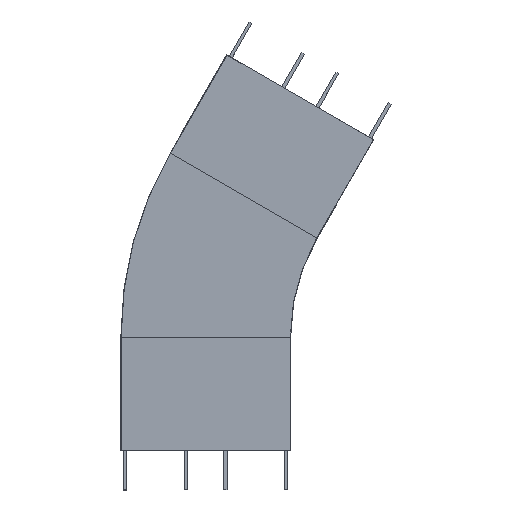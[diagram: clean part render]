
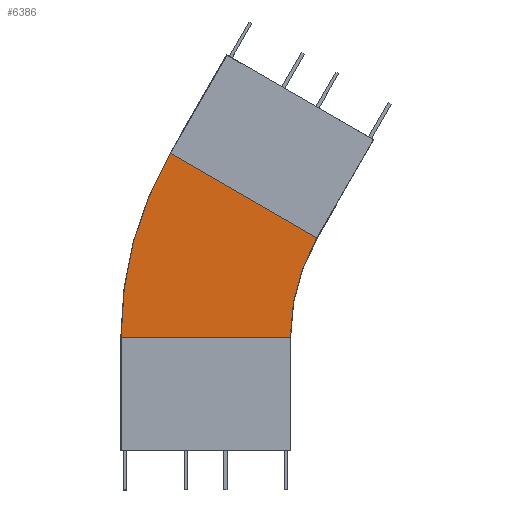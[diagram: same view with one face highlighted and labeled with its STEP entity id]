
A CAD part, top view. The second image highlights one B-rep face of the part: STEP entity #6386.
In plain terms, the highlighted planar face has unit normal (0, 0, 1).
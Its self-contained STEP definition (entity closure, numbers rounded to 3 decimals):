
#34 = CARTESIAN_POINT ( 'NONE',  ( -562.483, 324.75, 37. ) ) ;
#221 = AXIS2_PLACEMENT_3D ( 'NONE', #8310, #1627, #7547 ) ;
#343 = AXIS2_PLACEMENT_3D ( 'NONE', #2795, #2893, #3514 ) ;
#801 = CIRCLE ( 'NONE', #1267, 350.5 ) ;
#991 = EDGE_CURVE ( 'NONE', #4163, #8152, #1192, .T. ) ;
#1192 = LINE ( 'NONE', #8452, #1268 ) ;
#1267 = AXIS2_PLACEMENT_3D ( 'NONE', #8843, #2249, #8886 ) ;
#1268 = VECTOR ( 'NONE', #1773, 1000. ) ;
#1627 = DIRECTION ( 'NONE',  ( 0., 0., 1. ) ) ;
#1773 = DIRECTION ( 'NONE',  ( -0.866, 0.5, 0. ) ) ;
#1982 = CARTESIAN_POINT ( 'NONE',  ( -350.5, 0., 37. ) ) ;
#2122 = FACE_OUTER_BOUND ( 'NONE', #2894, .T. ) ;
#2249 = DIRECTION ( 'NONE',  ( 0., 0., 1. ) ) ;
#2591 = EDGE_CURVE ( 'NONE', #4163, #8863, #801, .T. ) ;
#2795 = CARTESIAN_POINT ( 'NONE',  ( -303.542, 175.25, 37. ) ) ;
#2893 = DIRECTION ( 'NONE',  ( 0., 0., 1. ) ) ;
#2894 = EDGE_LOOP ( 'NONE', ( #7503, #8988, #5330, #6155 ) ) ;
#3096 = VECTOR ( 'NONE', #4113, 1000. ) ;
#3301 = CIRCLE ( 'NONE', #221, 649.5 ) ;
#3490 = CARTESIAN_POINT ( 'NONE',  ( -303.542, 175.25, 37. ) ) ;
#3514 = DIRECTION ( 'NONE',  ( 1., 0., 0. ) ) ;
#3658 = PLANE ( 'NONE',  #343 ) ;
#4046 = EDGE_CURVE ( 'NONE', #8152, #9183, #3301, .T. ) ;
#4113 = DIRECTION ( 'NONE',  ( 1., 0., 0. ) ) ;
#4163 = VERTEX_POINT ( 'NONE', #3490 ) ;
#5330 = ORIENTED_EDGE ( 'NONE', *, *, #4046, .T. ) ;
#5810 = EDGE_CURVE ( 'NONE', #9183, #8863, #6277, .T. ) ;
#6155 = ORIENTED_EDGE ( 'NONE', *, *, #5810, .T. ) ;
#6277 = LINE ( 'NONE', #1982, #3096 ) ;
#6291 = CARTESIAN_POINT ( 'NONE',  ( -649.5, 0., 37. ) ) ;
#6386 = ADVANCED_FACE ( 'NONE', ( #2122 ), #3658, .T. ) ;
#7503 = ORIENTED_EDGE ( 'NONE', *, *, #2591, .F. ) ;
#7547 = DIRECTION ( 'NONE',  ( -0.866, 0.5, 0. ) ) ;
#8152 = VERTEX_POINT ( 'NONE', #34 ) ;
#8310 = CARTESIAN_POINT ( 'NONE',  ( 0., 0., 37. ) ) ;
#8452 = CARTESIAN_POINT ( 'NONE',  ( -433.013, 250., 37. ) ) ;
#8561 = CARTESIAN_POINT ( 'NONE',  ( -350.5, 0., 37. ) ) ;
#8843 = CARTESIAN_POINT ( 'NONE',  ( 0., 0., 37. ) ) ;
#8863 = VERTEX_POINT ( 'NONE', #8561 ) ;
#8886 = DIRECTION ( 'NONE',  ( -0.866, 0.5, 0. ) ) ;
#8988 = ORIENTED_EDGE ( 'NONE', *, *, #991, .T. ) ;
#9183 = VERTEX_POINT ( 'NONE', #6291 ) ;
